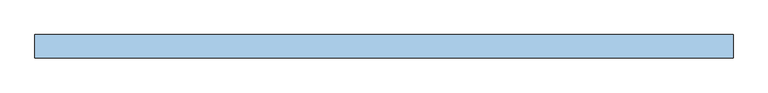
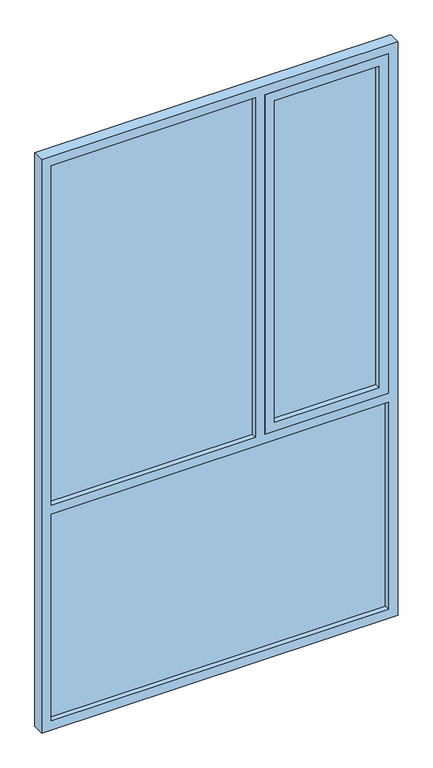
"""IFC4 building model written with IfcOpenShell, lengths in millimetres: window geometry, VENT_ALUM_PROY_ARRIBA_ABAJO FIJO COMPLETO : VD-9/ PROYECC RECAM 1.5 X 2.55."""

from ifc_helpers import new_model, si_unit, frame, origin, place, context, project, spatial, polyline, outline, extrude, source, transform, mapped, element, save


def window_4f4d9dc3(model_context):
    return source(origin(), model_context, "Body", "SweptSolid", [
        extrude(outline(polyline([(1500.0, 190.0), (1500.0, 710.0), (3010.0, 710.0), (3010.0, 190.0), (1500.0, 190.0)]), holes=[polyline([(2970.0, 230.0), (2970.0, 670.0), (1540.0, 670.0), (1540.0, 230.0), (2970.0, 230.0)])]), frame((0.0, -25.0, 0.0), z_axis=(0.0, 1.0, 0.0), x_axis=(0.0, 0.0, 1.0)), (0.0, 0.0, 1.0), 50.0),
        extrude(outline(polyline([(3050.0, -750.0), (500.0, -750.0), (500.0, 750.0), (3050.0, 750.0), (3050.0, -750.0)]), holes=[polyline([(1460.0, -710.0), (1460.0, 710.0), (540.0, 710.0), (540.0, -710.0), (1460.0, -710.0)]), polyline([(3010.0, 710.0), (1500.0, 710.0), (1500.0, 190.0), (3010.0, 190.0), (3010.0, 710.0)]), polyline([(3010.0, -710.0), (3010.0, 150.0), (1500.0, 150.0), (1500.0, -710.0), (3010.0, -710.0)])]), frame((0.0, -25.0, 0.0), z_axis=(0.0, 1.0, 0.0), x_axis=(0.0, 0.0, 1.0)), (0.0, 0.0, 1.0), 50.0),
        extrude(outline(polyline([(670.0, -3.0), (230.0, -3.0), (230.0, 3.0), (670.0, 3.0), (670.0, -3.0)])), frame((0.0, 0.0, 1540.0), z_axis=(0.0, 0.0, 1.0), x_axis=(1.0, 0.0, 0.0)), (0.0, 0.0, 1.0), 1430.0),
        extrude(outline(polyline([(710.0, -3.0), (-710.0, -3.0), (-710.0, 3.0), (710.0, 3.0), (710.0, -3.0)])), frame((0.0, 0.0, 540.0), z_axis=(0.0, 0.0, 1.0), x_axis=(1.0, 0.0, 0.0)), (0.0, 0.0, 1.0), 920.0),
        extrude(outline(polyline([(150.0, -3.0), (-710.0, -3.0), (-710.0, 3.0), (150.0, 3.0), (150.0, -3.0)])), frame((0.0, 0.0, 1500.0), z_axis=(0.0, 0.0, 1.0), x_axis=(1.0, 0.0, 0.0)), (0.0, 0.0, 1.0), 1510.0),
    ])


if __name__ == "__main__":
    model = new_model("IFC4")
    model_context = context("Model", 3, world=origin())
    ifc_project = project(units=[si_unit("LENGTHUNIT", "METRE", prefix="MILLI")], contexts=[model_context])
    site = spatial("IfcSite", under=ifc_project)
    building = spatial("IfcBuilding", under=site)
    placement = place(None, origin())
    window_shape = window_4f4d9dc3(model_context)
    element("IfcWindow", 1, ObjectType="VENT_ALUM_PROY_ARRIBA_ABAJO FIJO COMPLETO : VD-9/ PROYECC RECAM 1.5 X 2.55", at=placement, inside=building, context=model_context, shape_type="MappedRepresentation", body=[
        mapped(window_shape, transform((0.0, 0.0, 0.0), x_axis=(1.0, 0.0, 0.0), y_axis=(0.0, 1.0, 0.0), z_axis=(0.0, 0.0, 1.0))),
    ])
    save(model, "model.ifc")
